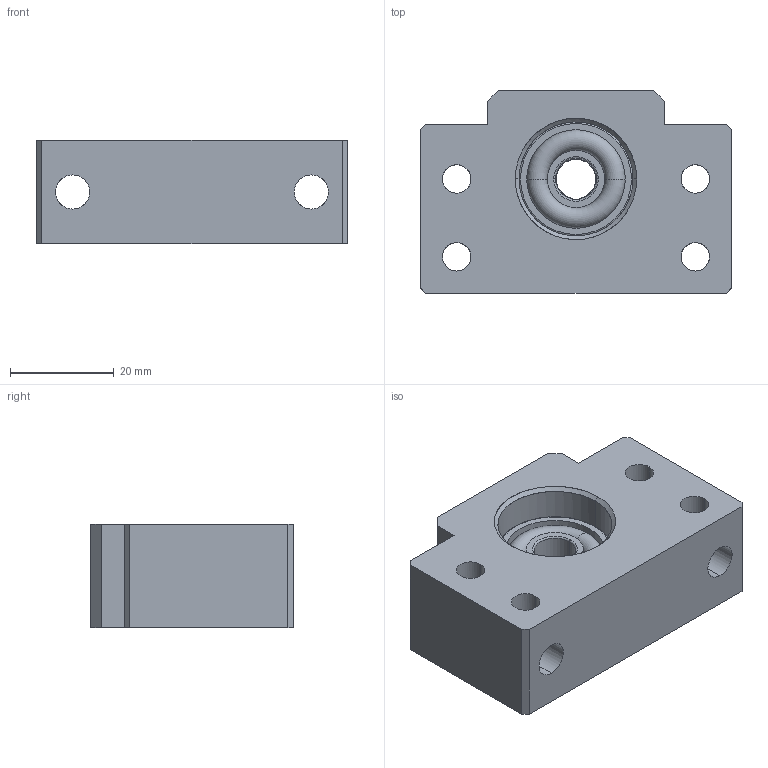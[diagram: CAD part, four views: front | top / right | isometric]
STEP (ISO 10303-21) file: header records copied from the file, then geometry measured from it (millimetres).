
FILE_DESCRIPTION(/* description */ (''),/* implementation_level */ '2;1');
FILE_NAME(/* name */ 'P:\01_PRODUTOS OBR\Mancais\BF\STEP\BF10.stp',/* time_stamp */ '2019-08-09T16:59:27-03:00',/* author */ ('Engenharia2'),/* organization */ (''),/* preprocessor_version */ 'ST-DEVELOPER v15.2',/* originating_system */ 'Autodesk Inventor 2014',/* authorisation */ '');
FILE_SCHEMA (('AUTOMOTIVE_DESIGN { 1 0 10303 214 3 1 1 }'));
Length unit declared in the file: millimetre
Products named in the file (4): CORPO BF10; ROLAMENO 608-ZZ; DIN 471 - ֠8; BF10
Bounding box: 60 x 39 x 20 mm (x, y, z)
Surface area: 12804.8 mm2 (no closed solid volume)
Topology: 0 solids, 96 shells, 96 faces, 480 edges, 480 vertices
Faces by surface type: cylinder 50, plane 28, torus 12, bspline 6
Entity records: 8600 total; most frequent: CARTESIAN_POINT 4601, DIRECTION 774, VERTEX_POINT 480, EDGE_CURVE 480, ORIENTED_EDGE 480, AXIS2_PLACEMENT_3D 269, LINE 236, VECTOR 236
